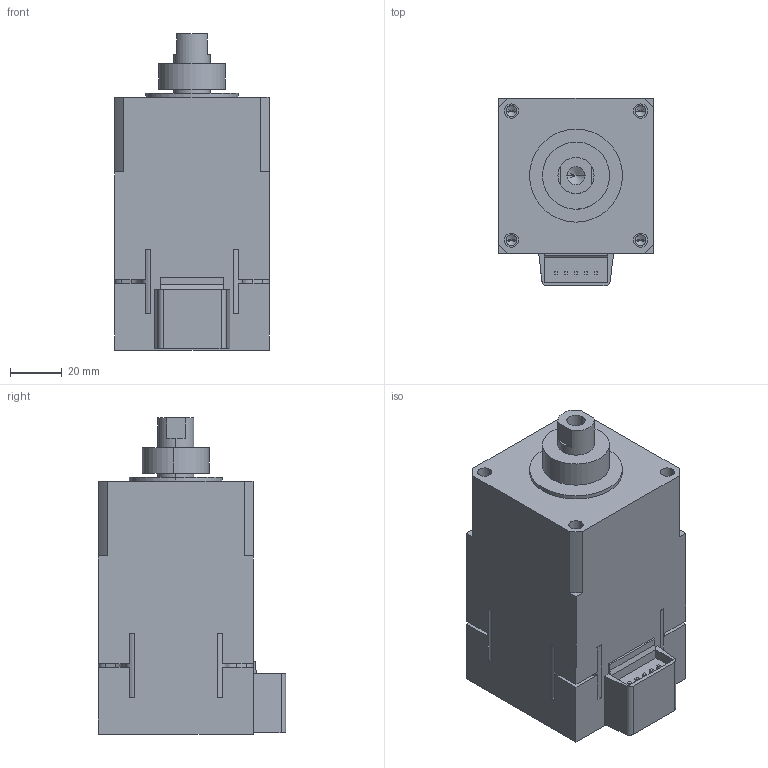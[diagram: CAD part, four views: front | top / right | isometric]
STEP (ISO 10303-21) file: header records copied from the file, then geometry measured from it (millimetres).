
FILE_DESCRIPTION (( 'STEP AP203' ), '1' );
FILE_NAME ('D3410.STEP', '2021-03-31T04:57:09', ( '' ), ( '' ), 'SwSTEP 2.0', 'SolidWorks 2017', '' );
FILE_SCHEMA (( 'CONFIG_CONTROL_DESIGN' ));
Length unit declared in the file: millimetre
Products named in the file (3): DRLM60-05B4M-K_BallScrew-1; D3410; DRLM60-05B4M-K_BASE-1
Assembly tree (2 placements, depth 2):
  D3410
    DRLM60-05B4M-K_BASE-1
    DRLM60-05B4M-K_BallScrew-1
Bounding box: 60 x 72.5 x 122.5 mm (x, y, z)
Volume: 361118.9 mm3; surface area: 48458.9 mm2
Topology: 2 solids, 2 shells, 158 faces, 400 edges, 257 vertices
Faces by surface type: plane 90, cylinder 58, cone 10
Entity records: 4987 total; most frequent: DIRECTION 836, CARTESIAN_POINT 810, ORIENTED_EDGE 780, EDGE_CURVE 390, AXIS2_PLACEMENT_3D 283, LINE 270, VECTOR 270, VERTEX_POINT 257
